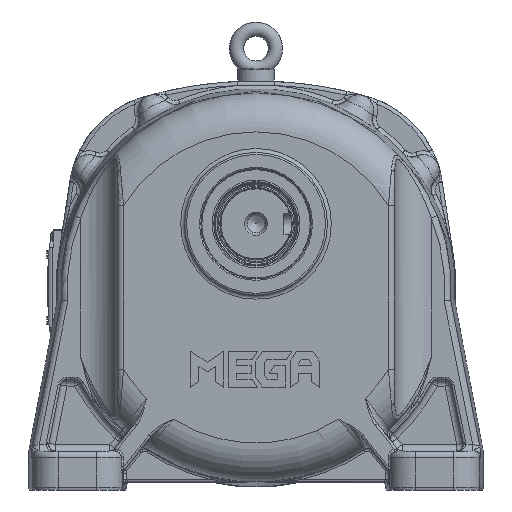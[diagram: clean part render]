
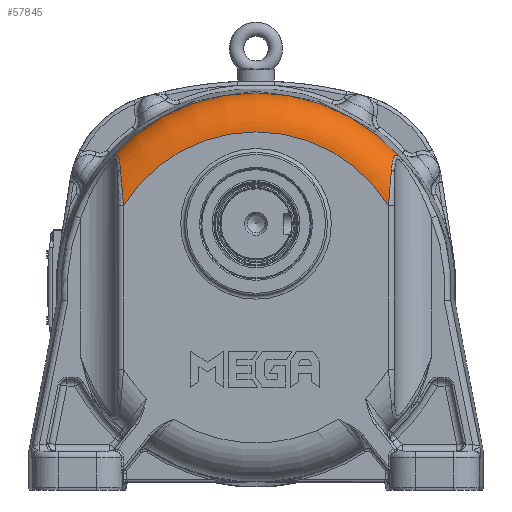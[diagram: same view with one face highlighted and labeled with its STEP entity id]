
A CAD part, front view. The second image highlights one B-rep face of the part: STEP entity #57845.
In plain terms, the highlighted toroidal (fillet/blend) face has major radius 119.862 mm and minor radius 30 mm.
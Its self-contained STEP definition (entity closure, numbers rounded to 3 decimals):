
#1665=TOROIDAL_SURFACE('',#62872,119.862,30.);
#4745=FACE_OUTER_BOUND('',#8312,.T.);
#8312=EDGE_LOOP('',(#44132,#44133,#44134,#44135,#44136,#44137));
#11913=CIRCLE('',#62866,149.849);
#11919=CIRCLE('',#62873,119.862);
#20801=B_SPLINE_CURVE_WITH_KNOTS('',3,(#107795,#107796,#107797,#107798,
#107799),.UNSPECIFIED.,.F.,.F.,(4,1,4),(-2.599,-1.114,
0.),.UNSPECIFIED.);
#20802=B_SPLINE_CURVE_WITH_KNOTS('',3,(#107848,#107849,#107850,#107851,
#107852,#107853,#107854,#107855,#107856),.UNSPECIFIED.,.F.,.F.,(4,1,1,1,
1,1,4),(0.,0.733,1.1,1.466,1.833,
2.199,2.566),.UNSPECIFIED.);
#20810=B_SPLINE_CURVE_WITH_KNOTS('',3,(#108018,#108019,#108020,#108021,
#108022),.UNSPECIFIED.,.F.,.F.,(4,1,4),(-2.599,-1.114,
0.),.UNSPECIFIED.);
#20811=B_SPLINE_CURVE_WITH_KNOTS('',3,(#108023,#108024,#108025,#108026,
#108027,#108028,#108029,#108030,#108031),.UNSPECIFIED.,.F.,.F.,(4,1,1,1,
1,1,4),(-2.566,-2.199,-1.833,-1.466,
-1.1,-0.733,0.),.UNSPECIFIED.);
#24494=VERTEX_POINT('',#107761);
#24495=VERTEX_POINT('',#107794);
#24496=VERTEX_POINT('',#107846);
#24502=VERTEX_POINT('',#107989);
#24507=VERTEX_POINT('',#108016);
#24508=VERTEX_POINT('',#108017);
#31365=EDGE_CURVE('',#24494,#24495,#20801,.T.);
#31368=EDGE_CURVE('',#24495,#24496,#20802,.T.);
#31377=EDGE_CURVE('',#24502,#24496,#11913,.T.);
#31386=EDGE_CURVE('',#24507,#24508,#20810,.T.);
#31387=EDGE_CURVE('',#24502,#24507,#20811,.T.);
#31388=EDGE_CURVE('',#24494,#24508,#11919,.T.);
#44132=ORIENTED_EDGE('',*,*,#31386,.F.);
#44133=ORIENTED_EDGE('',*,*,#31387,.F.);
#44134=ORIENTED_EDGE('',*,*,#31377,.T.);
#44135=ORIENTED_EDGE('',*,*,#31368,.F.);
#44136=ORIENTED_EDGE('',*,*,#31365,.F.);
#44137=ORIENTED_EDGE('',*,*,#31388,.T.);
#57845=ADVANCED_FACE('',(#4745),#1665,.T.);
#62866=AXIS2_PLACEMENT_3D('',#107990,#74735,#74736);
#62872=AXIS2_PLACEMENT_3D('',#108015,#74747,#74748);
#62873=AXIS2_PLACEMENT_3D('',#108032,#74749,#74750);
#74735=DIRECTION('center_axis',(0.,-1.,0.));
#74736=DIRECTION('ref_axis',(-1.,0.,0.));
#74747=DIRECTION('center_axis',(0.,1.,0.));
#74748=DIRECTION('ref_axis',(0.,0.,1.));
#74749=DIRECTION('center_axis',(0.,1.,0.));
#74750=DIRECTION('ref_axis',(-1.,0.,0.));
#107761=CARTESIAN_POINT('',(-87.506,-117.223,38.701));
#107794=CARTESIAN_POINT('',(-89.775,-111.223,65.938));
#107795=CARTESIAN_POINT('Ctrl Pts',(-87.506,-117.223,
38.701));
#107796=CARTESIAN_POINT('Ctrl Pts',(-87.948,-117.223,
43.924));
#107797=CARTESIAN_POINT('Ctrl Pts',(-88.739,-116.386,
53.212));
#107798=CARTESIAN_POINT('Ctrl Pts',(-89.482,-113.186,
62.278));
#107799=CARTESIAN_POINT('Ctrl Pts',(-89.775,-111.223,
65.938));
#107846=CARTESIAN_POINT('',(-97.451,-88.098,75.364));
#107848=CARTESIAN_POINT('Ctrl Pts',(-89.775,-111.223,
65.938));
#107849=CARTESIAN_POINT('Ctrl Pts',(-89.968,-109.932,68.348));
#107850=CARTESIAN_POINT('Ctrl Pts',(-90.315,-107.569,
71.827));
#107851=CARTESIAN_POINT('Ctrl Pts',(-91.23,-103.22,
75.512));
#107852=CARTESIAN_POINT('Ctrl Pts',(-92.287,-99.337,
77.401));
#107853=CARTESIAN_POINT('Ctrl Pts',(-93.78,-95.169,
77.96));
#107854=CARTESIAN_POINT('Ctrl Pts',(-95.565,-91.307,
77.167));
#107855=CARTESIAN_POINT('Ctrl Pts',(-96.821,-89.109,
76.028));
#107856=CARTESIAN_POINT('Ctrl Pts',(-97.451,-88.098,
75.364));
#107989=CARTESIAN_POINT('',(126.44,-88.098,75.364));
#107990=CARTESIAN_POINT('Origin',(14.494,-88.098,-24.25));
#108015=CARTESIAN_POINT('Origin',(14.494,-87.223,-24.25));
#108016=CARTESIAN_POINT('',(118.763,-111.223,65.938));
#108017=CARTESIAN_POINT('',(116.494,-117.223,38.701));
#108018=CARTESIAN_POINT('Ctrl Pts',(118.763,-111.223,65.938));
#108019=CARTESIAN_POINT('Ctrl Pts',(118.372,-113.84,
61.058));
#108020=CARTESIAN_POINT('Ctrl Pts',(117.612,-116.589,
51.849));
#108021=CARTESIAN_POINT('Ctrl Pts',(116.826,-117.223,42.618));
#108022=CARTESIAN_POINT('Ctrl Pts',(116.494,-117.223,38.701));
#108023=CARTESIAN_POINT('Ctrl Pts',(126.44,-88.098,
75.364));
#108024=CARTESIAN_POINT('Ctrl Pts',(125.809,-89.109,
76.028));
#108025=CARTESIAN_POINT('Ctrl Pts',(124.552,-91.309,77.167));
#108026=CARTESIAN_POINT('Ctrl Pts',(122.768,-95.168,
77.96));
#108027=CARTESIAN_POINT('Ctrl Pts',(121.275,-99.338,
77.401));
#108028=CARTESIAN_POINT('Ctrl Pts',(120.218,-103.219,
75.513));
#108029=CARTESIAN_POINT('Ctrl Pts',(119.303,-107.571,71.826));
#108030=CARTESIAN_POINT('Ctrl Pts',(118.956,-109.932,
68.348));
#108031=CARTESIAN_POINT('Ctrl Pts',(118.763,-111.223,65.938));
#108032=CARTESIAN_POINT('Origin',(14.494,-117.223,-24.25));
